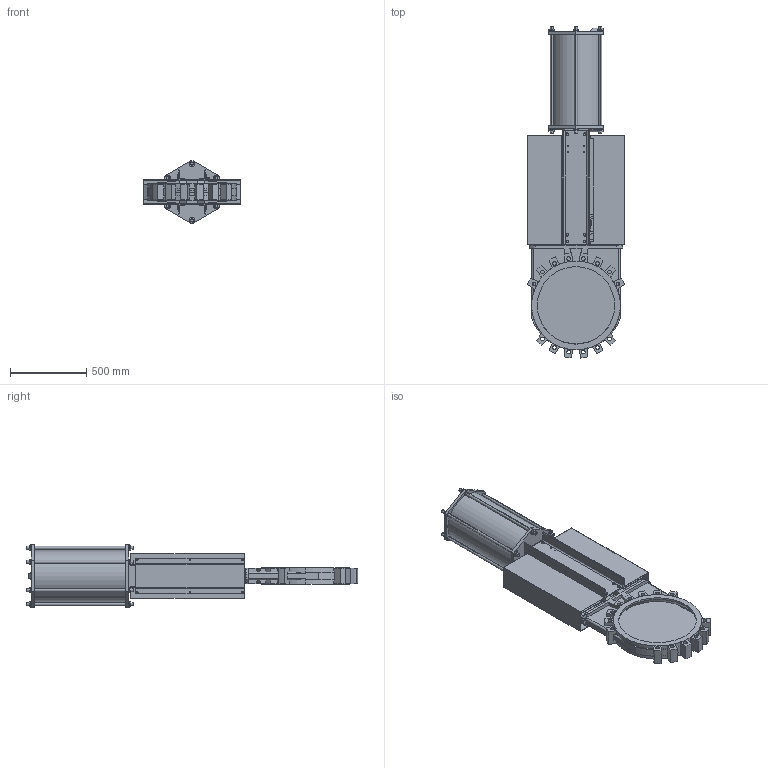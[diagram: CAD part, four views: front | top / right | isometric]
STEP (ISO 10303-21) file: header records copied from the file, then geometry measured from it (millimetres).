
FILE_DESCRIPTION (( 'STEP AP203' ), '1' );
FILE_NAME ('VG P DN500.STEP', '2010-01-29T06:15:20', ( 'farex' ), ( '' ), 'SwSTEP 2.0', 'SolidWorks 2009', '' );
FILE_SCHEMA (( 'CONFIG_CONTROL_DESIGN' ));
Products named in the file (1): VG P DN500
Bounding box: 635.7 x 2176.04 x 415.69 mm (x, y, z)
Volume: 41877394.5 mm3; surface area: 6693631 mm2
Topology: 1 solids, 25 shells, 1559 faces, 3952 edges, 2588 vertices
Faces by surface type: plane 923, cylinder 474, cone 105, bspline 41, torus 16
Entity records: 50741 total; most frequent: CARTESIAN_POINT 12486, ORIENTED_EDGE 7904, DIRECTION 7875, EDGE_CURVE 3952, AXIS2_PLACEMENT_3D 2695, VERTEX_POINT 2588, LINE 2485, VECTOR 2485
